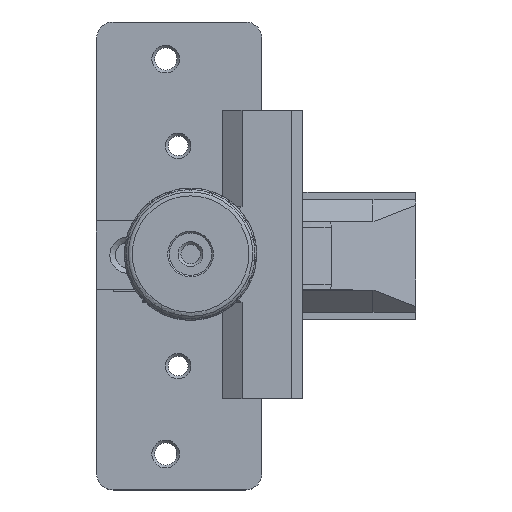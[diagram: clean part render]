
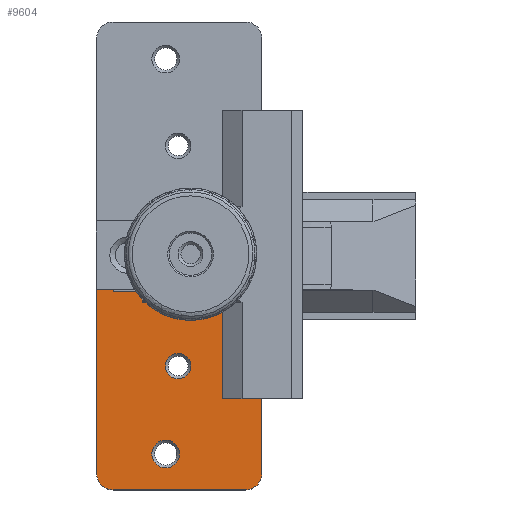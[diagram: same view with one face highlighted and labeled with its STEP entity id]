
A CAD part, top view. The second image highlights one B-rep face of the part: STEP entity #9604.
In plain terms, the highlighted planar face has unit normal (0, 0, 1).
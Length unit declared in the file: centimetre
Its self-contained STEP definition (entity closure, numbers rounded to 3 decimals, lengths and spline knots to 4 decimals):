
#56=FACE_BOUND($,#1710,.T.);
#57=FACE_BOUND($,#1711,.T.);
#310=CIRCLE($,#10507,0.3);
#311=CIRCLE($,#10510,0.3);
#312=CIRCLE($,#10511,0.15);
#313=CIRCLE($,#10512,0.23);
#314=CIRCLE($,#10513,0.2519);
#1085=FACE_OUTER_BOUND($,#1709,.T.);
#1709=EDGE_LOOP($,(#8199,#8200,#8201,#8202,#8203,#8204,#8205,#8206,#8207));
#1710=EDGE_LOOP($,(#8208));
#1711=EDGE_LOOP($,(#8209));
#2724=LINE($,#16833,#3395);
#2730=LINE($,#16845,#3401);
#2731=LINE($,#16849,#3402);
#2732=LINE($,#16853,#3403);
#2733=LINE($,#16855,#3404);
#2734=LINE($,#16856,#3405);
#3395=VECTOR($,#12747,3.3323);
#3401=VECTOR($,#12755,2.4);
#3402=VECTOR($,#12758,3.15);
#3403=VECTOR($,#12761,2.55);
#3404=VECTOR($,#12762,0.0323);
#3405=VECTOR($,#12763,0.3);
#4262=VERTEX_POINT($,#16826);
#4263=VERTEX_POINT($,#16827);
#4264=VERTEX_POINT($,#16832);
#4269=VERTEX_POINT($,#16844);
#4270=VERTEX_POINT($,#16846);
#4271=VERTEX_POINT($,#16848);
#4272=VERTEX_POINT($,#16850);
#4273=VERTEX_POINT($,#16852);
#4274=VERTEX_POINT($,#16854);
#4275=VERTEX_POINT($,#16857);
#4276=VERTEX_POINT($,#16859);
#5602=EDGE_CURVE($,#4262,#4263,#310,.T.);
#5605=EDGE_CURVE($,#4264,#4263,#2724,.T.);
#5611=EDGE_CURVE($,#4262,#4269,#2730,.F.);
#5612=EDGE_CURVE($,#4270,#4269,#311,.T.);
#5613=EDGE_CURVE($,#4270,#4271,#2731,.T.);
#5614=EDGE_CURVE($,#4272,#4271,#312,.T.);
#5615=EDGE_CURVE($,#4272,#4273,#2732,.T.);
#5616=EDGE_CURVE($,#4273,#4274,#2733,.T.);
#5617=EDGE_CURVE($,#4274,#4264,#2734,.T.);
#5618=EDGE_CURVE($,#4275,#4275,#313,.T.);
#5619=EDGE_CURVE($,#4276,#4276,#314,.T.);
#8199=ORIENTED_EDGE($,*,*,#5602,.F.);
#8200=ORIENTED_EDGE($,*,*,#5611,.T.);
#8201=ORIENTED_EDGE($,*,*,#5612,.F.);
#8202=ORIENTED_EDGE($,*,*,#5613,.T.);
#8203=ORIENTED_EDGE($,*,*,#5614,.F.);
#8204=ORIENTED_EDGE($,*,*,#5615,.T.);
#8205=ORIENTED_EDGE($,*,*,#5616,.T.);
#8206=ORIENTED_EDGE($,*,*,#5617,.T.);
#8207=ORIENTED_EDGE($,*,*,#5605,.T.);
#8208=ORIENTED_EDGE($,*,*,#5618,.F.);
#8209=ORIENTED_EDGE($,*,*,#5619,.F.);
#9038=PLANE($,#10509);
#9604=ADVANCED_FACE($,(#1085,#56,#57),#9038,.T.);
#10507=AXIS2_PLACEMENT_3D($,#16828,#12741,#12742);
#10509=AXIS2_PLACEMENT_3D($,#16843,#12753,#12754);
#10510=AXIS2_PLACEMENT_3D($,#16847,#12756,#12757);
#10511=AXIS2_PLACEMENT_3D($,#16851,#12759,#12760);
#10512=AXIS2_PLACEMENT_3D($,#16858,#12764,#12765);
#10513=AXIS2_PLACEMENT_3D($,#16860,#12766,#12767);
#12741=DIRECTION('center_axis',(0.,0.,-1.));
#12742=DIRECTION('ref_axis',(-0.707,-0.707,0.));
#12747=DIRECTION($,(0.,-1.,0.));
#12753=DIRECTION('center_axis',(0.,0.,1.));
#12754=DIRECTION('ref_axis',(-1.,0.,0.));
#12755=DIRECTION($,(-1.,0.,0.));
#12756=DIRECTION('center_axis',(0.,0.,-1.));
#12757=DIRECTION('ref_axis',(0.707,-0.707,0.));
#12758=DIRECTION($,(0.,1.,0.));
#12759=DIRECTION('center_axis',(0.,0.,-1.));
#12760=DIRECTION('ref_axis',(0.707,0.707,0.));
#12761=DIRECTION($,(-1.,0.,0.));
#12762=DIRECTION($,(0.,1.,0.));
#12763=DIRECTION($,(-1.,0.,0.));
#12764=DIRECTION('center_axis',(0.,0.,1.));
#12765=DIRECTION('ref_axis',(1.,0.,0.));
#12766=DIRECTION('center_axis',(0.,0.,1.));
#12767=DIRECTION('ref_axis',(-1.,0.,0.));
#16826=CARTESIAN_POINT('',(-15.1366,12.6488,12.9013));
#16827=CARTESIAN_POINT('',(-15.4366,12.9488,12.9013));
#16828=CARTESIAN_POINT('Origin',(-15.1366,12.9488,12.9013));
#16832=CARTESIAN_POINT('',(-15.4366,16.281,12.9013));
#16833=CARTESIAN_POINT($,(-15.4366,12.8488,12.9013));
#16843=CARTESIAN_POINT('Origin',(-13.9366,16.8988,12.9013));
#16844=CARTESIAN_POINT('',(-12.7366,12.6488,12.9013));
#16845=CARTESIAN_POINT($,(-12.6866,12.6488,12.9013));
#16846=CARTESIAN_POINT('',(-12.4366,12.9488,12.9013));
#16847=CARTESIAN_POINT('Origin',(-12.7366,12.9488,12.9013));
#16848=CARTESIAN_POINT('',(-12.4366,16.0988,12.9013));
#16849=CARTESIAN_POINT($,(-12.4366,11.2988,12.9013));
#16850=CARTESIAN_POINT('',(-12.5866,16.2488,12.9013));
#16851=CARTESIAN_POINT('Origin',(-12.5866,16.0988,12.9013));
#16852=CARTESIAN_POINT('',(-15.1366,16.2488,12.9013));
#16853=CARTESIAN_POINT($,(-13.1866,16.2488,12.9013));
#16854=CARTESIAN_POINT('',(-15.1366,16.281,12.9013));
#16855=CARTESIAN_POINT($,(-15.1366,16.8988,12.9013));
#16856=CARTESIAN_POINT($,(-14.5234,16.281,12.9013));
#16857=CARTESIAN_POINT('',(-14.1883,14.8988,12.9013));
#16858=CARTESIAN_POINT('Origin',(-13.9583,14.8988,12.9013));
#16859=CARTESIAN_POINT('',(-13.9326,13.3018,12.9013));
#16860=CARTESIAN_POINT('Origin',(-14.1845,13.3018,12.9013));
